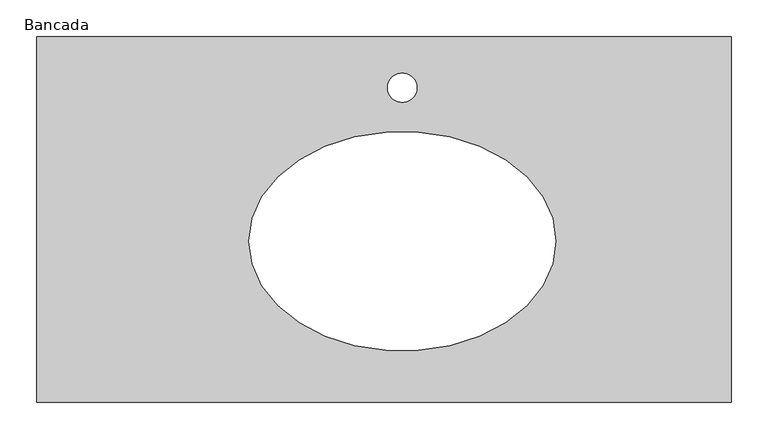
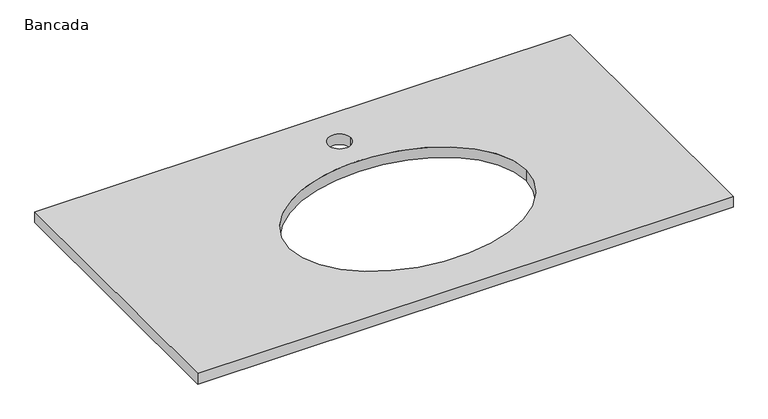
"""IFC4 building model written with IfcOpenShell, lengths in millimetres: furniture geometry, Bancada Retangular para lavatório Cuba Oval com Torneira Chanfro : Bancada."""

from ifc_helpers import new_model, si_unit, point, frame, origin, place, context, project, spatial, polyline, circle_curve, ellipse_curve, trimmed, source, transform, mapped, element, save
from ifc_brep_helpers import plane_surface, revolved_surface, extruded_surface, advanced_brep


def bancada_3f8d7115(model_context):
    return source(origin(), model_context, "Body", "AdvancedBrep", [
        advanced_brep(
        [(374.7003264, -500.0, 1000.0), (374.7003264, 0.0, 1000.0), (-575.2996736, 0.0, 1000.0), (-575.2996736, -500.0, 1000.0), (-55.4142184, -70.0, 1000.0), (-95.4142184, -70.0, 1000.0), (-285.2996736, -279.7230202, 1000.0), (134.7003264, -279.7230202, 1000.0), (374.7003264, -500.0, 980.0), (-575.2996736, -500.0, 980.0), (-575.2996736, 0.0, 980.0), (374.7003264, 0.0, 980.0), (-95.4142184, -70.0, 980.0), (-55.4142184, -70.0, 980.0), (134.7003264, -279.7230202, 980.0), (-285.2996736, -279.7230202, 980.0)],
        [
            (0, 1),
            (1, 2),
            (2, 3),
            (3, 0),
            (4, 5, circle_curve(frame((-75.4142184, -70.0, 1000.0), z_axis=(0.0, 0.0, -1.0), x_axis=(1.0, 0.0, 0.0)), 20.0)),
            (5, 4, circle_curve(frame((-75.4142184, -70.0, 1000.0), z_axis=(0.0, 0.0, -1.0), x_axis=(1.0, 0.0, 0.0)), 20.0)),
            (6, 7, ellipse_curve(frame((-75.2996736, -279.7230202, 1000.0), z_axis=(0.0, 0.0, -1.0), x_axis=(-1.0, 0.0, 0.0)), 210.0, 150.0)),
            (7, 6, ellipse_curve(frame((-75.2996736, -279.7230202, 1000.0), z_axis=(0.0, 0.0, -1.0), x_axis=(-1.0, 0.0, 0.0)), 210.0, 150.0)),
            (8, 9),
            (9, 10),
            (10, 11),
            (11, 8),
            (12, 13, circle_curve(frame((-75.4142184, -70.0, 980.0), z_axis=(0.0, 0.0, 1.0), x_axis=(1.0, 0.0, 0.0)), 20.0)),
            (13, 12, circle_curve(frame((-75.4142184, -70.0, 980.0), z_axis=(0.0, 0.0, 1.0), x_axis=(1.0, 0.0, 0.0)), 20.0)),
            (14, 15, ellipse_curve(frame((-75.2996736, -279.7230202, 980.0), z_axis=(0.0, 0.0, 1.0), x_axis=(-1.0, 0.0, 0.0)), 210.0, 150.0)),
            (15, 14, ellipse_curve(frame((-75.2996736, -279.7230202, 980.0), z_axis=(0.0, 0.0, 1.0), x_axis=(-1.0, 0.0, 0.0)), 210.0, 150.0)),
            (0, 8),
            (11, 1),
            (10, 2),
            (9, 3),
            (12, 5),
            (4, 13),
            (14, 7),
            (6, 15),
        ],
        [
            plane_surface(frame((374.7003264, -500.0, 1000.0), z_axis=(0.0, 0.0, 1.0), x_axis=(0.0, 1.0, 0.0))),
            plane_surface(frame((374.7003264, -500.0, 980.0), z_axis=(0.0, 0.0, -1.0), x_axis=(0.0, -1.0, 0.0))),
            plane_surface(frame((374.7003264, -500.0, 1000.0), z_axis=(1.0, 0.0, 0.0), x_axis=(0.0, 0.0, -1.0))),
            plane_surface(frame((374.7003264, 0.0, 1000.0), z_axis=(0.0, 1.0, 0.0), x_axis=(0.0, 0.0, -1.0))),
            plane_surface(frame((-575.2996736, 0.0, 1000.0), z_axis=(-1.0, 0.0, 0.0), x_axis=(0.0, 0.0, -1.0))),
            plane_surface(frame((-575.2996736, -500.0, 1000.0), z_axis=(0.0, -1.0, 0.0), x_axis=(0.0, 0.0, -1.0))),
            revolved_surface(polyline([(-55.414218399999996, -70.0, 1000.0), (-55.414218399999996, -70.0, 980.0)]), (-75.4142184, -70.0, 680.0), (0.0, 0.0, 1.0)),
            extruded_surface(trimmed(ellipse_curve(frame((-75.2996736, -279.7230202, 680.0), z_axis=(0.0, 0.0, 1.0), x_axis=(-1.0, 0.0, 0.0)), 210.0, 150.0), [point((134.7003264, -279.7230202, 680.0))], [point((-285.2996736, -279.7230202, 680.0))], True, "CARTESIAN"), (0.0, 0.0, -320.0), 320.0),
            extruded_surface(trimmed(ellipse_curve(frame((-75.2996736, -279.7230202, 680.0), z_axis=(0.0, 0.0, 1.0), x_axis=(-1.0, 0.0, 0.0)), 210.0, 150.0), [point((-285.2996736, -279.7230202, 680.0))], [point((134.7003264, -279.7230202, 680.0))], True, "CARTESIAN"), (0.0, 0.0, -320.0), 320.0),
        ],
        [
            (0, [[1, 2, 3, 4], [5, 6], [7, 8]]),
            (1, [[9, 10, 11, 12], [13, 14], [15, 16]]),
            (2, [[-1, 17, -12, 18]]),
            (3, [[-2, -18, -11, 19]]),
            (4, [[-3, -19, -10, 20]]),
            (5, [[-4, -20, -9, -17]]),
            (6, [[21, -5, 22, -13]]),
            (6, [[-21, -14, -22, -6]]),
            (7, [[23, -7, 24, -15]]),
            (8, [[-23, -16, -24, -8]]),
        ],
    ),
    ])


if __name__ == "__main__":
    model = new_model("IFC4")
    model_context = context("Model", 3, world=origin())
    ifc_project = project(units=[si_unit("LENGTHUNIT", "METRE", prefix="MILLI")], contexts=[model_context])
    site = spatial("IfcSite", under=ifc_project)
    building = spatial("IfcBuilding", under=site)
    placement = place(None, origin())
    bancada_shape = bancada_3f8d7115(model_context)
    element("IfcFurniture", 1, ObjectType="Bancada Retangular para lavatório Cuba Oval com Torneira Chanfro : Bancada", at=placement, inside=building, context=model_context, shape_type="MappedRepresentation", body=[
        mapped(bancada_shape, transform((0.0, 0.0, 0.0), x_axis=(1.0, 0.0, 0.0), y_axis=(0.0, 1.0, 0.0), z_axis=(0.0, 0.0, 1.0))),
    ])
    save(model, "model.ifc")
